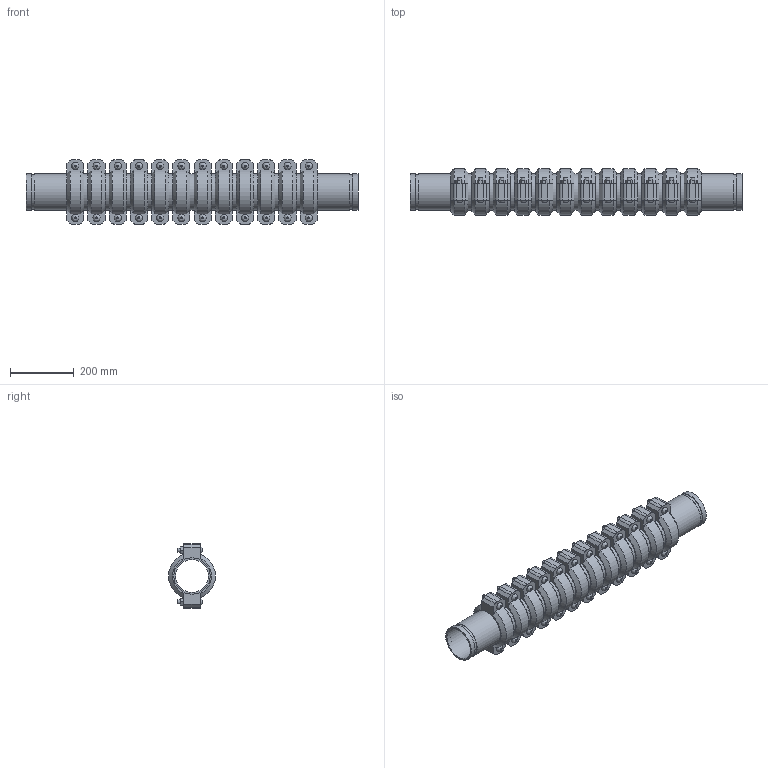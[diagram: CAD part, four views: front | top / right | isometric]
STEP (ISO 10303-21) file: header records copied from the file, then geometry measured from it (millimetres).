
FILE_DESCRIPTION(/* description */ ('VIC SS EXPANSION JOINT 12 COUPLINGS EXPANDED STYLE 155P (OGS) (POTABLE WATER) ','CAx-IF Rec.Pracs.---Representation and Presentation of Product Manufacturing Information (PMI)---4.0---2014-10-13'),/* implementation_level */ '2;1');
FILE_NAME(/* name */ 'C:\Users\kkamble\AppData\Roaming\Autodesk\ApplicationPlugins\Victaulic.Temp\A679\Victaulic_SS_Expansion Joint_Expanded_12 Couplings_Style 155P (OGS)-Potable Water_12 Coup_Expd_4 (100).stp',/* time_stamp */ '2021-07-16T16:47:39+05:00',/* author */ ('kkamble'),/* organization */ ('Victaulic'),/* preprocessor_version */ 'ST-DEVELOPER v17.2',/* originating_system */ 'Autodesk Inventor 2019',/* authorisation */ '');
FILE_SCHEMA (('AP242_MANAGED_MODEL_BASED_3D_ENGINEERING_MIM_LF { 1 0 10303 442 1 1 4 }'));
Length unit declared in the file: inch
Products named in the file (4): 155P-04.0; Nipple-04.0; Nipple-04.0_1; 075-04.0
Assembly tree (25 placements, depth 2):
  155P-04.0
    Nipple-04.0  x2
    Nipple-04.0_1  x11
    075-04.0  x12
Bounding box: 1045.21 x 147.32 x 203.96 mm (x, y, z)
Volume: 7394338.2 mm3; surface area: 1706620.1 mm2
Topology: 25 solids, 49 shells, 840 faces, 1986 edges, 1392 vertices
Faces by surface type: plane 510, cylinder 258, cone 48, bspline 24
Full cylindrical faces by diameter (mm): 12.7 x48, 14.605 x24, 103.988 x13, 107.95 x12, 110.084 x26, 114.3 x63
Entity records: 2904 total; most frequent: CARTESIAN_POINT 509, DIRECTION 493, ORIENTED_EDGE 386, AXIS2_PLACEMENT_3D 200, EDGE_CURVE 193, VERTEX_POINT 138, EDGE_LOOP 107, LINE 93
